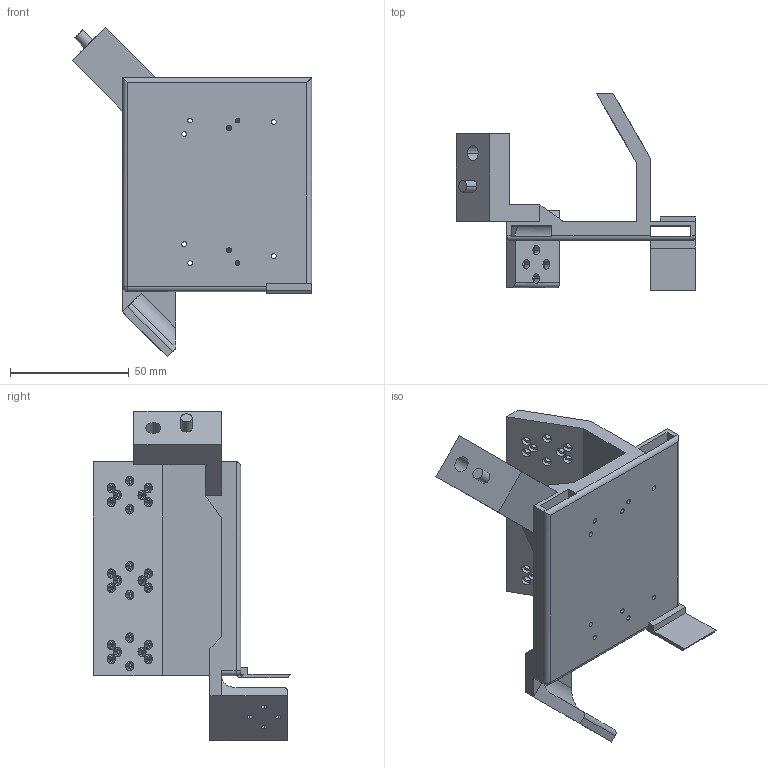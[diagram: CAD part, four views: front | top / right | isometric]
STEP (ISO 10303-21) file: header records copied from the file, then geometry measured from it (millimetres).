
FILE_DESCRIPTION (( 'STEP AP214' ), '1' );
FILE_NAME ('base.STEP', '2026-09-17T12:53:37', ( '' ), ( '' ), 'SwSTEP 2.0', 'SolidWorks 2024', '' );
FILE_SCHEMA (( 'AUTOMOTIVE_DESIGN' ));
Length unit declared in the file: millimetre
Products named in the file (2): 基座4_默认; base
Assembly tree (1 placements, depth 2):
  base
    基座4_默认
Bounding box: 100.75 x 82.93 x 138.56 mm (x, y, z)
Volume: 93185 mm3; surface area: 45117.5 mm2
Topology: 1 solids, 1 shells, 233 faces, 610 edges, 401 vertices
Faces by surface type: cylinder 149, plane 83, sphere 1
Entity records: 7521 total; most frequent: DIRECTION 1381, CARTESIAN_POINT 1263, ORIENTED_EDGE 1218, EDGE_CURVE 609, AXIS2_PLACEMENT_3D 539, VERTEX_POINT 401, EDGE_LOOP 344, LINE 303
